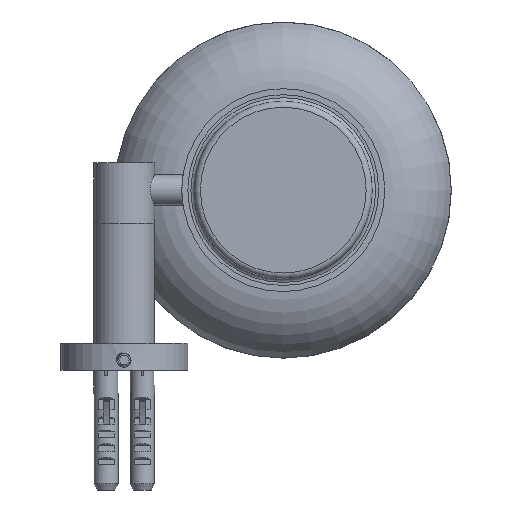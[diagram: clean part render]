
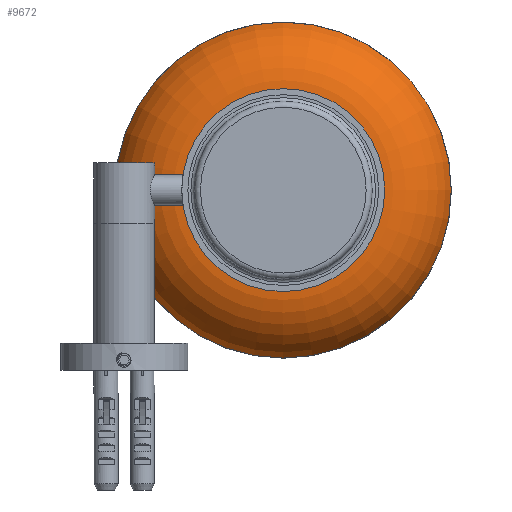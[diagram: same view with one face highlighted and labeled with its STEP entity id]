
A CAD part, front view. The second image highlights one B-rep face of the part: STEP entity #9672.
In plain terms, the highlighted toroidal (fillet/blend) face has major radius 31.933 mm and minor radius 25 mm.
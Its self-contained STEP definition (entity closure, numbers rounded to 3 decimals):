
#142=TOROIDAL_SURFACE('',#10371,31.933,25.);
#811=FACE_OUTER_BOUND('',#1397,.T.);
#1397=EDGE_LOOP('',(#7846,#7847,#7848,#7849,#7850,#7851));
#1793=CIRCLE('',#10368,55.375);
#1794=CIRCLE('',#10369,55.375);
#1796=CIRCLE('',#10372,25.);
#1797=CIRCLE('',#10373,31.933);
#1798=CIRCLE('',#10374,31.933);
#4266=VERTEX_POINT('',#37026);
#4267=VERTEX_POINT('',#37028);
#4268=VERTEX_POINT('',#37033);
#4269=VERTEX_POINT('',#37035);
#5534=EDGE_CURVE('',#4266,#4267,#1793,.T.);
#5535=EDGE_CURVE('',#4267,#4266,#1794,.T.);
#5537=EDGE_CURVE('',#4266,#4268,#1796,.T.);
#5538=EDGE_CURVE('',#4268,#4269,#1797,.T.);
#5539=EDGE_CURVE('',#4269,#4268,#1798,.T.);
#7846=ORIENTED_EDGE('',*,*,#5535,.F.);
#7847=ORIENTED_EDGE('',*,*,#5534,.F.);
#7848=ORIENTED_EDGE('',*,*,#5537,.T.);
#7849=ORIENTED_EDGE('',*,*,#5538,.T.);
#7850=ORIENTED_EDGE('',*,*,#5539,.T.);
#7851=ORIENTED_EDGE('',*,*,#5537,.F.);
#9672=ADVANCED_FACE('',(#811),#142,.T.);
#10368=AXIS2_PLACEMENT_3D('',#37029,#11960,#11961);
#10369=AXIS2_PLACEMENT_3D('',#37030,#11962,#11963);
#10371=AXIS2_PLACEMENT_3D('',#37032,#11966,#11967);
#10372=AXIS2_PLACEMENT_3D('',#37034,#11968,#11969);
#10373=AXIS2_PLACEMENT_3D('',#37036,#11970,#11971);
#10374=AXIS2_PLACEMENT_3D('',#37037,#11972,#11973);
#11960=DIRECTION('center_axis',(0.,1.,0.));
#11961=DIRECTION('ref_axis',(-1.,0.,0.));
#11962=DIRECTION('center_axis',(0.,1.,0.));
#11963=DIRECTION('ref_axis',(-1.,0.,0.));
#11966=DIRECTION('center_axis',(0.,1.,0.));
#11967=DIRECTION('ref_axis',(1.,0.,0.));
#11968=DIRECTION('center_axis',(0.,0.,1.));
#11969=DIRECTION('ref_axis',(-1.,0.,0.));
#11970=DIRECTION('center_axis',(0.,1.,0.));
#11971=DIRECTION('ref_axis',(-1.,0.,0.));
#11972=DIRECTION('center_axis',(0.,1.,0.));
#11973=DIRECTION('ref_axis',(-1.,0.,0.));
#37026=CARTESIAN_POINT('',(34.625,-172.737,333.05));
#37028=CARTESIAN_POINT('',(145.375,-172.737,333.05));
#37029=CARTESIAN_POINT('Origin',(90.,-172.737,333.05));
#37030=CARTESIAN_POINT('Origin',(90.,-172.737,333.05));
#37032=CARTESIAN_POINT('Origin',(90.,-164.05,333.05));
#37033=CARTESIAN_POINT('',(58.067,-189.05,333.05));
#37034=CARTESIAN_POINT('Origin',(58.067,-164.05,333.05));
#37035=CARTESIAN_POINT('',(121.933,-189.05,333.05));
#37036=CARTESIAN_POINT('Origin',(90.,-189.05,333.05));
#37037=CARTESIAN_POINT('Origin',(90.,-189.05,333.05));
